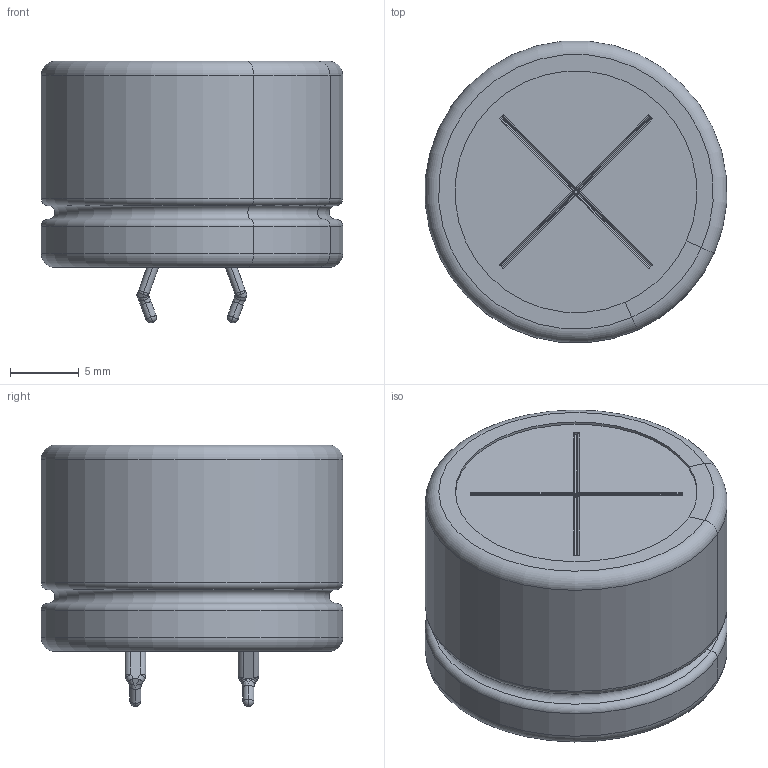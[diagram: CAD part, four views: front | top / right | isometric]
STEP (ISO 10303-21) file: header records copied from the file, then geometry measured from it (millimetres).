
FILE_DESCRIPTION(/* description */ (''),/* implementation_level */ '2;1');
FILE_NAME(/* name */ '22x15_Snap.stp',/* time_stamp */ '2017-09-02T14:33:37+09:00',/* author */ (''),/* organization */ (''),/* preprocessor_version */ 'ST-DEVELOPER v16',/* originating_system */ 'SIEMENS PLM Software NX 11.0',/* authorisation */ '');
FILE_SCHEMA (('AUTOMOTIVE_DESIGN { 1 0 10303 214 3 1 1 1 }'));
Length unit declared in the file: millimetre
Products named in the file (1): 22x15_Snap_igsstp
Bounding box: 21.93 x 21.93 x 19.02 mm (x, y, z)
Volume: 5520.3 mm3; surface area: 4532.8 mm2
Topology: 5 solids, 5 shells, 208 faces, 523 edges, 310 vertices
Faces by surface type: cylinder 76, plane 75, torus 25, sphere 20, bspline 12
Full cylindrical faces by diameter (mm): 4 x2, 21.6 x2
Entity records: 6789 total; most frequent: CARTESIAN_POINT 1265, DIRECTION 1128, ORIENTED_EDGE 988, EDGE_CURVE 494, AXIS2_PLACEMENT_3D 437, VERTEX_POINT 310, LINE 254, VECTOR 254
